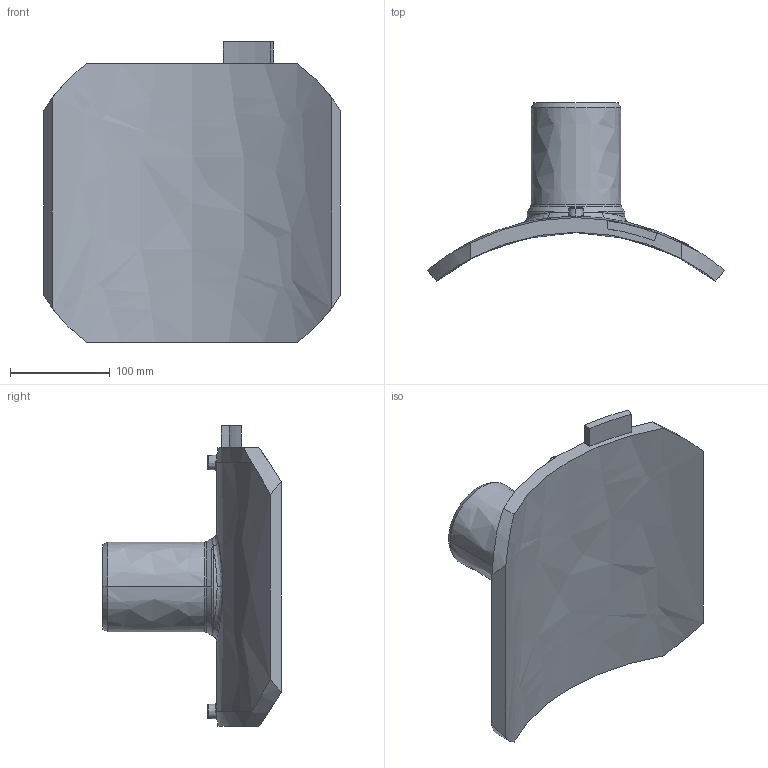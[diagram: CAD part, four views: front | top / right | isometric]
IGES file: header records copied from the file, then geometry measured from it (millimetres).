
Start section:  PTC IGES file: sa-uni_d450_90_01.igs
Global section: file name: sa-uni_d450_90_01.igs; native system: Pro/ENGINEER by Parametric Technology Corporation; preprocessor: 2011490; author: MikulicP; organization: Unknown; date: 20170208.140448; units: millimetre
Bounding box: 297 x 178.71 x 301 mm (x, y, z)
Surface area: 251502.4 mm2 (no closed solid volume)
Topology: 0 solids, 0 shells, 216 faces, 1070 edges, 1068 vertices
Faces by surface type: bspline 216
